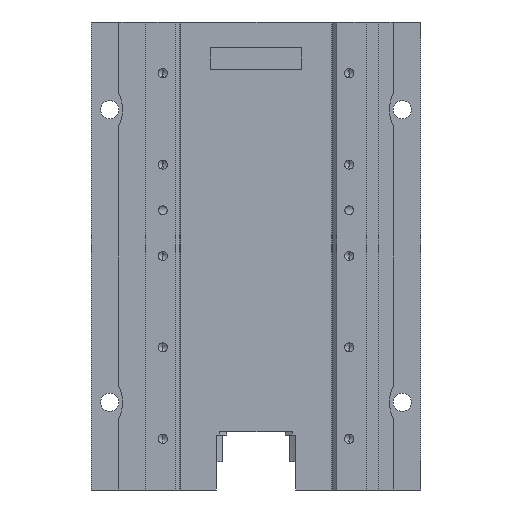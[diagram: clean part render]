
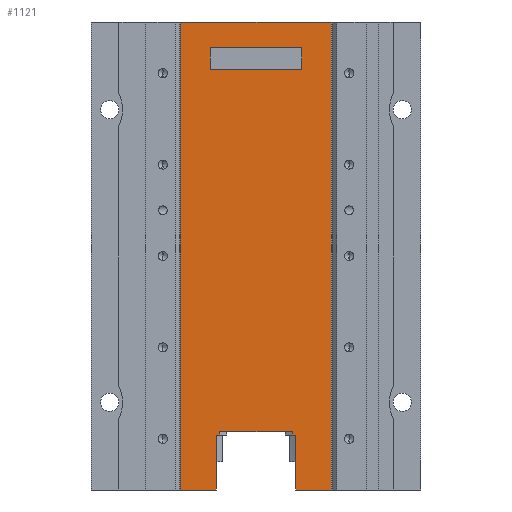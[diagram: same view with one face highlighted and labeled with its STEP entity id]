
A CAD part, front view. The second image highlights one B-rep face of the part: STEP entity #1121.
In plain terms, the highlighted planar face has unit normal (0, -1, 0).
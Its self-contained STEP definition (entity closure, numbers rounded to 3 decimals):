
#532 = VERTEX_POINT ( 'NONE', #3640 ) ;
#533 = EDGE_CURVE ( 'NONE', #535, #532, #3639, .T. ) ;
#535 = VERTEX_POINT ( 'NONE', #3635 ) ;
#844 = ORIENTED_EDGE ( 'NONE', *, *, #845, .F. ) ;
#845 = EDGE_CURVE ( 'NONE', #1126, #1132, #3964, .T. ) ;
#846 = ORIENTED_EDGE ( 'NONE', *, *, #847, .T. ) ;
#847 = EDGE_CURVE ( 'NONE', #848, #849, #3960, .T. ) ;
#848 = VERTEX_POINT ( 'NONE', #3956 ) ;
#849 = VERTEX_POINT ( 'NONE', #3955 ) ;
#850 = ORIENTED_EDGE ( 'NONE', *, *, #851, .T. ) ;
#851 = EDGE_CURVE ( 'NONE', #849, #2378, #3954, .T. ) ;
#852 = ORIENTED_EDGE ( 'NONE', *, *, #2377, .T. ) ;
#853 = ORIENTED_EDGE ( 'NONE', *, *, #854, .F. ) ;
#854 = EDGE_CURVE ( 'NONE', #532, #2278, #3950, .T. ) ;
#855 = ORIENTED_EDGE ( 'NONE', *, *, #533, .F. ) ;
#898 = VERTEX_POINT ( 'NONE', #4144 ) ;
#900 = EDGE_CURVE ( 'NONE', #904, #898, #4143, .T. ) ;
#904 = VERTEX_POINT ( 'NONE', #4000 ) ;
#953 = EDGE_CURVE ( 'NONE', #1141, #954, #4025, .T. ) ;
#954 = VERTEX_POINT ( 'NONE', #4021 ) ;
#955 = ORIENTED_EDGE ( 'NONE', *, *, #956, .T. ) ;
#956 = EDGE_CURVE ( 'NONE', #954, #957, #4020, .T. ) ;
#957 = VERTEX_POINT ( 'NONE', #4016 ) ;
#1118 = EDGE_CURVE ( 'NONE', #535, #904, #4347, .T. ) ;
#1121 = ADVANCED_FACE ( 'NONE', ( #4343, #4342 ), #4341, .F. ) ;
#1122 = EDGE_LOOP ( 'NONE', ( #1123, #1127, #1130, #844 ) ) ;
#1123 = ORIENTED_EDGE ( 'NONE', *, *, #1124, .F. ) ;
#1124 = EDGE_CURVE ( 'NONE', #1125, #1126, #4336, .T. ) ;
#1125 = VERTEX_POINT ( 'NONE', #4332 ) ;
#1126 = VERTEX_POINT ( 'NONE', #4331 ) ;
#1127 = ORIENTED_EDGE ( 'NONE', *, *, #1128, .F. ) ;
#1128 = EDGE_CURVE ( 'NONE', #1129, #1125, #4330, .T. ) ;
#1129 = VERTEX_POINT ( 'NONE', #4326 ) ;
#1130 = ORIENTED_EDGE ( 'NONE', *, *, #1131, .F. ) ;
#1131 = EDGE_CURVE ( 'NONE', #1132, #1129, #4325, .T. ) ;
#1132 = VERTEX_POINT ( 'NONE', #4321 ) ;
#1133 = EDGE_LOOP ( 'NONE', ( #846, #850, #852, #853, #855, #1134, #1135, #1136, #1139, #1142, #955, #1262 ) ) ;
#1134 = ORIENTED_EDGE ( 'NONE', *, *, #1118, .T. ) ;
#1135 = ORIENTED_EDGE ( 'NONE', *, *, #900, .T. ) ;
#1136 = ORIENTED_EDGE ( 'NONE', *, *, #1137, .T. ) ;
#1137 = EDGE_CURVE ( 'NONE', #898, #1138, #4320, .T. ) ;
#1138 = VERTEX_POINT ( 'NONE', #4316 ) ;
#1139 = ORIENTED_EDGE ( 'NONE', *, *, #1140, .T. ) ;
#1140 = EDGE_CURVE ( 'NONE', #1138, #1141, #4315, .T. ) ;
#1141 = VERTEX_POINT ( 'NONE', #4311 ) ;
#1142 = ORIENTED_EDGE ( 'NONE', *, *, #953, .T. ) ;
#1262 = ORIENTED_EDGE ( 'NONE', *, *, #1263, .T. ) ;
#1263 = EDGE_CURVE ( 'NONE', #957, #848, #4574, .T. ) ;
#2278 = VERTEX_POINT ( 'NONE', #6196 ) ;
#2377 = EDGE_CURVE ( 'NONE', #2378, #2278, #6413, .T. ) ;
#2378 = VERTEX_POINT ( 'NONE', #6409 ) ;
#3635 = CARTESIAN_POINT ( 'NONE',  ( -20.64, -16.5, 128. ) ) ;
#3636 = DIRECTION ( 'NONE',  ( 1., 0., 0. ) ) ;
#3637 = VECTOR ( 'NONE', #3636, 1000. ) ;
#3638 = CARTESIAN_POINT ( 'NONE',  ( -20.64, -16.5, 128. ) ) ;
#3639 = LINE ( 'NONE', #3638, #3637 ) ;
#3640 = CARTESIAN_POINT ( 'NONE',  ( 20.64, -16.5, 128. ) ) ;
#3947 = DIRECTION ( 'NONE',  ( 0., 0., -1. ) ) ;
#3948 = VECTOR ( 'NONE', #3947, 1000. ) ;
#3949 = CARTESIAN_POINT ( 'NONE',  ( 20.64, -16.5, 128. ) ) ;
#3950 = LINE ( 'NONE', #3949, #3948 ) ;
#3951 = DIRECTION ( 'NONE',  ( 0., 0., -1. ) ) ;
#3952 = VECTOR ( 'NONE', #3951, 1000. ) ;
#3953 = CARTESIAN_POINT ( 'NONE',  ( 10.854, -16.5, 0. ) ) ;
#3954 = LINE ( 'NONE', #3953, #3952 ) ;
#3955 = CARTESIAN_POINT ( 'NONE',  ( 10.854, -16.5, 15. ) ) ;
#3956 = CARTESIAN_POINT ( 'NONE',  ( 9.915, -16.5, 15. ) ) ;
#3957 = DIRECTION ( 'NONE',  ( 1., 0., 0. ) ) ;
#3958 = VECTOR ( 'NONE', #3957, 1000. ) ;
#3959 = CARTESIAN_POINT ( 'NONE',  ( -20.64, -16.5, 15. ) ) ;
#3960 = LINE ( 'NONE', #3959, #3958 ) ;
#3961 = DIRECTION ( 'NONE',  ( 0., 0., -1. ) ) ;
#3962 = VECTOR ( 'NONE', #3961, 1000. ) ;
#3963 = CARTESIAN_POINT ( 'NONE',  ( -12.5, -16.5, 121. ) ) ;
#3964 = LINE ( 'NONE', #3963, #3962 ) ;
#4000 = CARTESIAN_POINT ( 'NONE',  ( -20.64, -16.5, 0. ) ) ;
#4005 = DIRECTION ( 'NONE',  ( 1., 0., 0. ) ) ;
#4006 = VECTOR ( 'NONE', #4005, 1000. ) ;
#4007 = CARTESIAN_POINT ( 'NONE',  ( -20.64, -16.5, 0. ) ) ;
#4016 = CARTESIAN_POINT ( 'NONE',  ( 9.915, -16.5, 16. ) ) ;
#4017 = DIRECTION ( 'NONE',  ( 1., 0., 0. ) ) ;
#4018 = VECTOR ( 'NONE', #4017, 1000. ) ;
#4019 = CARTESIAN_POINT ( 'NONE',  ( -20.64, -16.5, 16. ) ) ;
#4020 = LINE ( 'NONE', #4019, #4018 ) ;
#4021 = CARTESIAN_POINT ( 'NONE',  ( -9.915, -16.5, 16. ) ) ;
#4022 = DIRECTION ( 'NONE',  ( 0., 0., 1. ) ) ;
#4023 = VECTOR ( 'NONE', #4022, 1000. ) ;
#4024 = CARTESIAN_POINT ( 'NONE',  ( -9.915, -16.5, 0. ) ) ;
#4025 = LINE ( 'NONE', #4024, #4023 ) ;
#4143 = LINE ( 'NONE', #4007, #4006 ) ;
#4144 = CARTESIAN_POINT ( 'NONE',  ( -10.854, -16.5, 0. ) ) ;
#4311 = CARTESIAN_POINT ( 'NONE',  ( -9.915, -16.5, 15. ) ) ;
#4312 = DIRECTION ( 'NONE',  ( 1., 0., 0. ) ) ;
#4313 = VECTOR ( 'NONE', #4312, 1000. ) ;
#4314 = CARTESIAN_POINT ( 'NONE',  ( -20.64, -16.5, 15. ) ) ;
#4315 = LINE ( 'NONE', #4314, #4313 ) ;
#4316 = CARTESIAN_POINT ( 'NONE',  ( -10.854, -16.5, 15. ) ) ;
#4317 = DIRECTION ( 'NONE',  ( 0., 0., 1. ) ) ;
#4318 = VECTOR ( 'NONE', #4317, 1000. ) ;
#4319 = CARTESIAN_POINT ( 'NONE',  ( -10.854, -16.5, 0. ) ) ;
#4320 = LINE ( 'NONE', #4319, #4318 ) ;
#4321 = CARTESIAN_POINT ( 'NONE',  ( -12.5, -16.5, 115. ) ) ;
#4322 = DIRECTION ( 'NONE',  ( 1., 0., 0. ) ) ;
#4323 = VECTOR ( 'NONE', #4322, 1000. ) ;
#4324 = CARTESIAN_POINT ( 'NONE',  ( 12.5, -16.5, 115. ) ) ;
#4325 = LINE ( 'NONE', #4324, #4323 ) ;
#4326 = CARTESIAN_POINT ( 'NONE',  ( 12.5, -16.5, 115. ) ) ;
#4327 = DIRECTION ( 'NONE',  ( 0., 0., 1. ) ) ;
#4328 = VECTOR ( 'NONE', #4327, 1000. ) ;
#4329 = CARTESIAN_POINT ( 'NONE',  ( 12.5, -16.5, 121. ) ) ;
#4330 = LINE ( 'NONE', #4329, #4328 ) ;
#4331 = CARTESIAN_POINT ( 'NONE',  ( -12.5, -16.5, 121. ) ) ;
#4332 = CARTESIAN_POINT ( 'NONE',  ( 12.5, -16.5, 121. ) ) ;
#4333 = DIRECTION ( 'NONE',  ( -1., 0., 0. ) ) ;
#4334 = VECTOR ( 'NONE', #4333, 1000. ) ;
#4335 = CARTESIAN_POINT ( 'NONE',  ( 12.5, -16.5, 121. ) ) ;
#4336 = LINE ( 'NONE', #4335, #4334 ) ;
#4337 = DIRECTION ( 'NONE',  ( 0., 0., 1. ) ) ;
#4338 = DIRECTION ( 'NONE',  ( 0., 1., 0. ) ) ;
#4339 = CARTESIAN_POINT ( 'NONE',  ( -20.64, -16.5, 128. ) ) ;
#4340 = AXIS2_PLACEMENT_3D ( 'NONE', #4339, #4338, #4337 ) ;
#4341 = PLANE ( 'NONE',  #4340 ) ;
#4342 = FACE_OUTER_BOUND ( 'NONE', #1133, .T. ) ;
#4343 = FACE_BOUND ( 'NONE', #1122, .T. ) ;
#4344 = DIRECTION ( 'NONE',  ( 0., 0., -1. ) ) ;
#4345 = VECTOR ( 'NONE', #4344, 1000. ) ;
#4346 = CARTESIAN_POINT ( 'NONE',  ( -20.64, -16.5, 128. ) ) ;
#4347 = LINE ( 'NONE', #4346, #4345 ) ;
#4571 = DIRECTION ( 'NONE',  ( 0., 0., -1. ) ) ;
#4572 = VECTOR ( 'NONE', #4571, 1000. ) ;
#4573 = CARTESIAN_POINT ( 'NONE',  ( 9.915, -16.5, 0. ) ) ;
#4574 = LINE ( 'NONE', #4573, #4572 ) ;
#6196 = CARTESIAN_POINT ( 'NONE',  ( 20.64, -16.5, 0. ) ) ;
#6409 = CARTESIAN_POINT ( 'NONE',  ( 10.854, -16.5, 0. ) ) ;
#6410 = DIRECTION ( 'NONE',  ( 1., 0., 0. ) ) ;
#6411 = VECTOR ( 'NONE', #6410, 1000. ) ;
#6412 = CARTESIAN_POINT ( 'NONE',  ( -20.64, -16.5, 0. ) ) ;
#6413 = LINE ( 'NONE', #6412, #6411 ) ;
